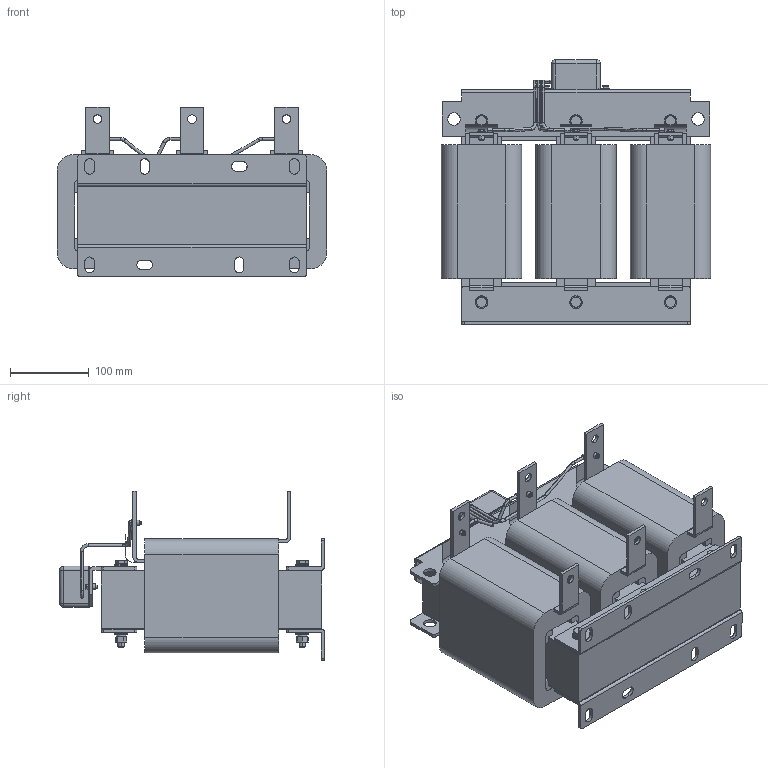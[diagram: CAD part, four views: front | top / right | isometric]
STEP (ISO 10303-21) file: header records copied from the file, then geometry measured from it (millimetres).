
FILE_DESCRIPTION (( 'STEP AP203' ), '1' );
FILE_NAME ('婰錪襝 dU_dT _ IDUDT-185_240-6.STEP', '2026-05-06T14:18:06', ( '' ), ( '' ), 'SwSTEP 2.0', 'SolidWorks 2021', '' );
FILE_SCHEMA (( 'CONFIG_CONTROL_DESIGN' ));
Length unit declared in the file: millimetre
Products named in the file (38): DVT-外出线排30×4-65; 婰錪襝 dU_dT _ IDUDT-185_240-6; 0.25橈埽祧-40; 三相铁芯290-50×73-280; hexagon nuts grade c gb_GB_FASTENER_NUT_SNC1 M8-N; 嶺啣沭50-280; DVT-线圈-200kW_2; DVT-线圈-200kW_9; DVT-线圈-200kW_4; DVT-线圈-200kW; M4℅12坋趼鞠褒芛蹟邡; 鞠褒蹟邡M8℅105; plain washers--product grade c gb_GB_FASTENER_WASHER_SMWC 8; DVT-线圈-200kW_10; 电容引线-250A; 电容盒-SKS-0901.601-LJ-A2; DVT-线圈-200kW_3; DVT-线圈-200kW_6; ﾇｰﾉﾏｼﾐｼ340｡ﾁ60｡ﾁ50; RNB1.25-4; 奻標璃-SKS-1007.404-LJ-A1; DVT-线圈-200kW_5; W26.5¡ÁH22¡ÁT12; DVT-囀堤盄齬30℅4; DVT-线圈-200kW_7; 电容引线-250A_1; spring lock washers--normal type gb_GB_FASTENER_WASHER_SW 8; 电容引线-250A_2; DVT-线圈-200kW_11; DVT-线圈-200kW_13; M4す菜; 狟標璃-SKS-1007.405-LJ-A0; DVT-线圈-200kW_8; DVT-线圈-200kW_1; DVT-线圈-200kW_12; DVT-线圈-200kW_14
Assembly tree (99 placements, depth 3):
  婰錪襝 dU_dT _ IDUDT-185_240-6
    三相铁芯290-50×73-280
    ﾇｰﾉﾏｼﾐｼ340｡ﾁ60｡ﾁ50
    奻標璃-SKS-1007.404-LJ-A1
    狟標璃-SKS-1007.405-LJ-A0  x2
    嶺啣沭50-280  x6
    plain washers--product grade c gb_GB_FASTENER_WASHER_SMWC 8  x24
    spring lock washers--normal type gb_GB_FASTENER_WASHER_SW 8  x6
    hexagon nuts grade c gb_GB_FASTENER_NUT_SNC1 M8-N  x6
    鞠褒蹟邡M8℅105  x6
    电容盒-SKS-0901.601-LJ-A2
    M4す菜  x5
    M4℅12坋趼鞠褒芛蹟邡  x5
    DVT-线圈-200kW
      DVT-线圈-200kW_6
      DVT-线圈-200kW_10
      DVT-线圈-200kW_5
      DVT-线圈-200kW_4
      DVT-线圈-200kW_14
      DVT-线圈-200kW_2
      DVT-线圈-200kW_7
      DVT-线圈-200kW_9
      DVT-线圈-200kW_12
      DVT-线圈-200kW_1
      DVT-线圈-200kW_3
      DVT-线圈-200kW_8
      DVT-线圈-200kW_13
      DVT-线圈-200kW_11
      DVT-线圈-200kW
    DVT-外出线排30×4-65  x3
    DVT-囀堤盄齬30℅4  x3
    RNB1.25-4  x3
    电容引线-250A
      电容引线-250A
      电容引线-250A_2
      电容引线-250A_1
    0.25橈埽祧-40  x3
    W26.5¡ÁH22¡ÁT12  x3
Bounding box: 342 x 336 x 215 mm (x, y, z)
Volume: 9694287.7 mm3; surface area: 1323503.9 mm2
Topology: 97 solids, 97 shells, 2167 faces, 5510 edges, 3606 vertices
Faces by surface type: plane 1176, cylinder 494, bspline 362, cone 130, sphere 5
Entity records: 37307 total; most frequent: CARTESIAN_POINT 10638, ORIENTED_EDGE 4414, DIRECTION 4149, EDGE_CURVE 2207, VERTEX_POINT 1447, VECTOR 1417, LINE 1417, AXIS2_PLACEMENT_3D 1366
